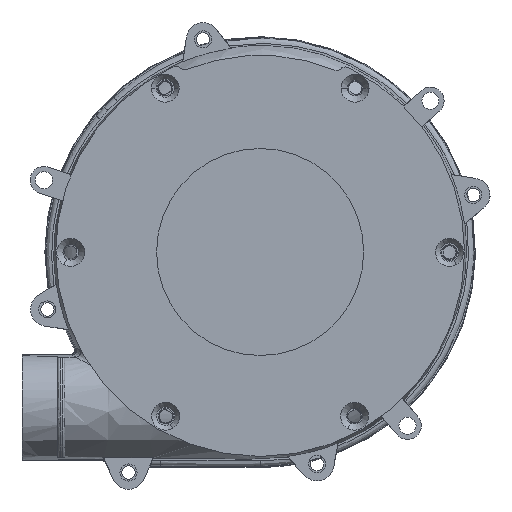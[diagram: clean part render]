
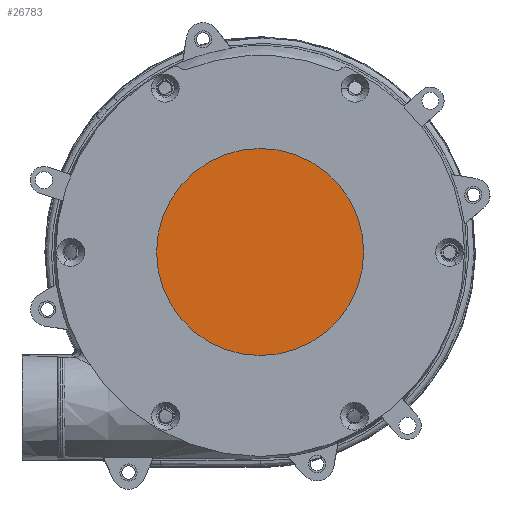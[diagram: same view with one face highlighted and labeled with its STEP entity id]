
A CAD part, front view. The second image highlights one B-rep face of the part: STEP entity #26783.
In plain terms, the highlighted planar face has unit normal (0, -1, 0).
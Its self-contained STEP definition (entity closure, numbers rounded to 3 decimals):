
#25728=CARTESIAN_POINT('',(0.,-22.23,0.));
#25729=DIRECTION('',(0.,1.,0.));
#25730=DIRECTION('',(1.,0.,0.));
#25731=AXIS2_PLACEMENT_3D('',#25728,#25729,#25730);
#25736=CARTESIAN_POINT('',(0.,-22.23,0.));
#25737=DIRECTION('',(0.,1.,0.));
#25738=DIRECTION('',(-1.,0.,0.));
#25739=AXIS2_PLACEMENT_3D('',#25736,#25737,#25738);
#25984=CARTESIAN_POINT('',(-20.,-22.23,0.));
#25985=VERTEX_POINT('',#25984);
#25986=CARTESIAN_POINT('',(20.,-22.23,0.));
#25987=VERTEX_POINT('',#25986);
#26774=CARTESIAN_POINT('',(0.,-22.23,0.));
#26775=DIRECTION('',(0.,-1.,0.));
#26776=DIRECTION('',(-1.,0.,0.));
#26777=AXIS2_PLACEMENT_3D('',#26774,#26775,#26776);
#26778=PLANE('',#26777);
#26779=ORIENTED_EDGE('',*,*,#26740,.T.);
#26780=ORIENTED_EDGE('',*,*,#26761,.T.);
#26781=EDGE_LOOP('',(#26779,#26780));
#26782=FACE_OUTER_BOUND('',#26781,.F.);
#26783=ADVANCED_FACE('',(#26782),#26778,.T.);
#25732=CIRCLE('',#25731,20.);
#25740=CIRCLE('',#25739,20.);
#26740=EDGE_CURVE('',#25987,#25985,#25732,.T.);
#26761=EDGE_CURVE('',#25985,#25987,#25740,.T.);
